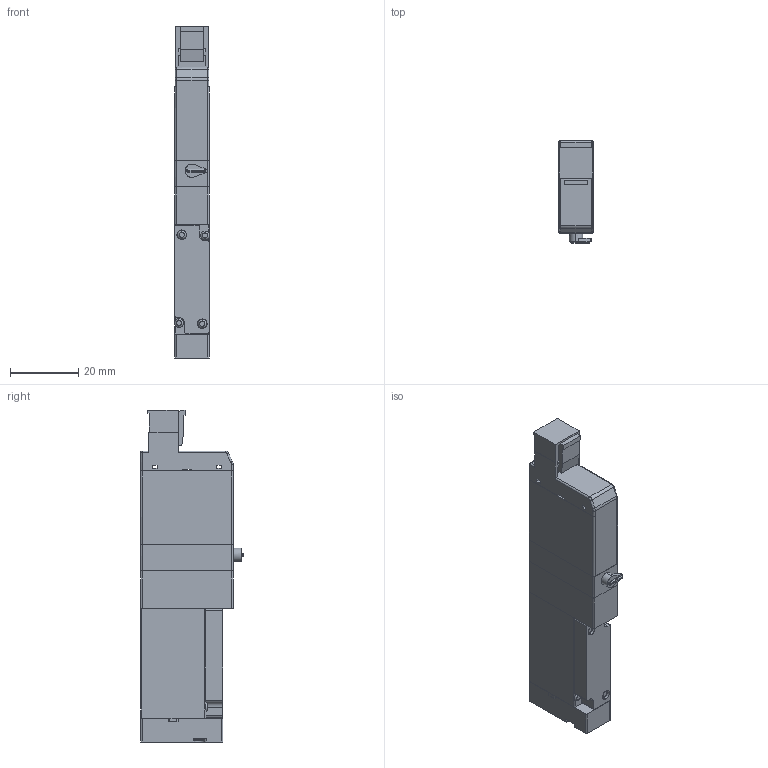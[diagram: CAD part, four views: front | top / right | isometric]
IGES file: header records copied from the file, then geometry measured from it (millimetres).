
Start section: ------------------------------------------------------------------------
Global section: file name: D:\ICADMX\tmp\trans3d_spg\CVICAD02.18204.F10T0-R-A1-PS_8438.igs; native system: spGate; preprocessor: ver12.6.6; author: Unknown; organization: Unknown; date: 200901.142346; units: millimetre
Bounding box: 10.2 x 30 x 97 mm (x, y, z)
Volume: 22388.9 mm3; surface area: 10411.3 mm2
Topology: 6 solids, 6 shells, 243 faces, 614 edges, 392 vertices
Faces by surface type: bspline 243
